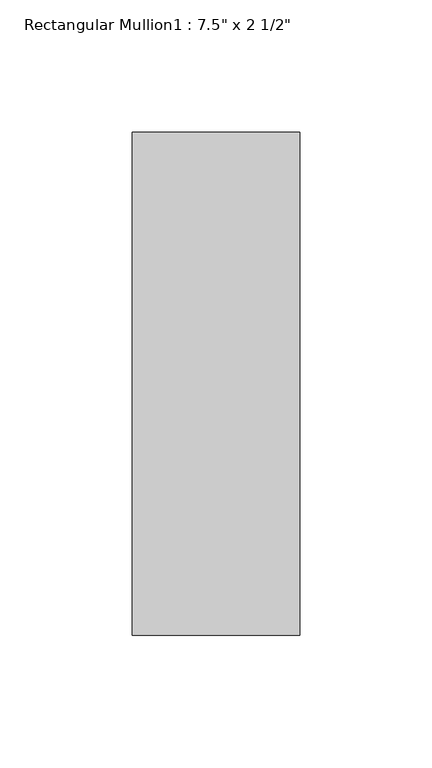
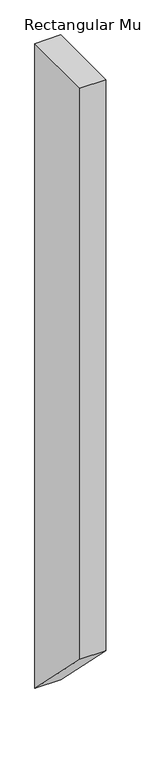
"""IFC4 building model written with IfcOpenShell, lengths in millimetres: member geometry."""

from ifc_helpers import new_model, si_unit, frame, origin, place, context, project, spatial, polyline, outline, extrude, source, transform, mapped, element, save


def member_ee2ce29c(model_context):
    return source(origin(), model_context, "Body", "SweptSolid", [
        extrude(outline(polyline([(-165.1, 0.0), (25.4, 0.0), (25.4, -1663.7), (-165.1, -1473.2), (-165.1, 0.0)])), frame((-63.5, 0.0, 0.0), z_axis=(1.0, 0.0, 0.0), x_axis=(0.0, 1.0, 0.0)), (0.0, 0.0, 1.0), 63.5),
    ])


if __name__ == "__main__":
    model = new_model("IFC4")
    model_context = context("Model", 3, world=origin())
    ifc_project = project(units=[si_unit("LENGTHUNIT", "METRE", prefix="MILLI")], contexts=[model_context])
    site = spatial("IfcSite", under=ifc_project)
    building = spatial("IfcBuilding", under=site)
    placement = place(None, origin())
    member_shape = member_ee2ce29c(model_context)
    element("IfcMember", 1, ObjectType="Rectangular Mullion1 : 7.5\" x 2 1/2\"", at=placement, inside=building, context=model_context, shape_type="MappedRepresentation", body=[
        mapped(member_shape, transform((0.0, 0.0, 0.0), x_axis=(1.0, 0.0, 0.0), y_axis=(0.0, 1.0, 0.0), z_axis=(0.0, 0.0, 1.0))),
    ])
    save(model, "model.ifc")
